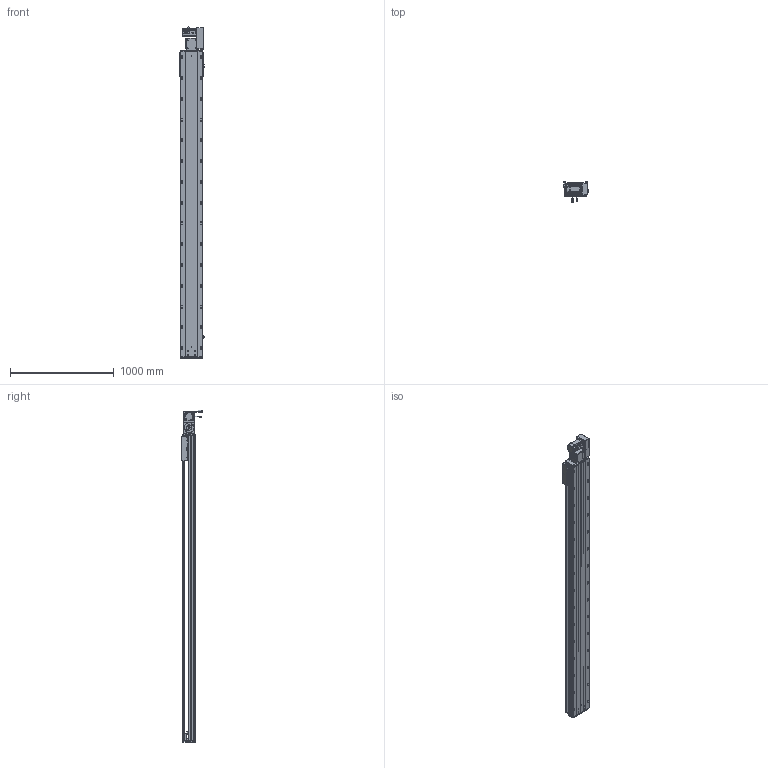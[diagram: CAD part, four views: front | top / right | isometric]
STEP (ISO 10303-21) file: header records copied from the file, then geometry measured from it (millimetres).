
FILE_DESCRIPTION (( 'STEP AP203' ), '1' );
FILE_NAME ('RY220-T-300-RK.SLDASM_2600.step', '2022-07-25T08:25:15', ( '' ), ( '' ), 'SwSTEP 2.0', 'SolidWorks 2016', '' );
FILE_SCHEMA (( 'CONFIG_CONTROL_DESIGN' ));
Length unit declared in the file: millimetre
Products named in the file (14): RY220-同步轮副支撑座6304×2; RY220-T-湍謫欶(鍼踢); RY220-俋离672覜茼んえ; 滅袉蝶18-15; RY220-T菁釱-300_2600; RY220翋肮祭謫釱; RY220-T-300-RK.SLDASM_2600; RY220圉猾敕々湍臏賑輸; RY220翋肮祭謫裔啣; 覜茼ん672; 怢湛750W_ECMA-CX0807ES; RY220-T-300-奻裔啣_2600; 110A-T-肮祭謫釱傷裔; RY220-T-蛌殏萇儂假蚾啣(750W)
Assembly tree (18 placements, depth 2):
  RY220-T-300-RK.SLDASM_2600
    RY220-T菁釱-300_2600
    RY220翋肮祭謫釱
    覜茼ん672  x3
    RY220圉猾敕々湍臏賑輸
    RY220-T-300-奻裔啣_2600
    RY220-俋离672覜茼んえ
    滅袉蝶18-15  x3
    RY220翋肮祭謫裔啣  x2
    110A-T-肮祭謫釱傷裔
    怢湛750W_ECMA-CX0807ES
    RY220-T-湍謫欶(鍼踢)
    RY220-T-蛌殏萇儂假蚾啣(750W)
    RY220-同步轮副支撑座6304×2
Bounding box: 238.7 x 198.77 x 3195.24 mm (x, y, z)
Volume: 22616858.7 mm3; surface area: 6954828 mm2
Topology: 19 solids, 19 shells, 2944 faces, 8139 edges, 5106 vertices
Faces by surface type: cylinder 1440, plane 1069, cone 353, bspline 56, sphere 16, torus 10
Entity records: 98099 total; most frequent: CARTESIAN_POINT 27705, ORIENTED_EDGE 14554, DIRECTION 14012, EDGE_CURVE 7277, AXIS2_PLACEMENT_3D 5042, VERTEX_POINT 4730, VECTOR 3928, LINE 3928
